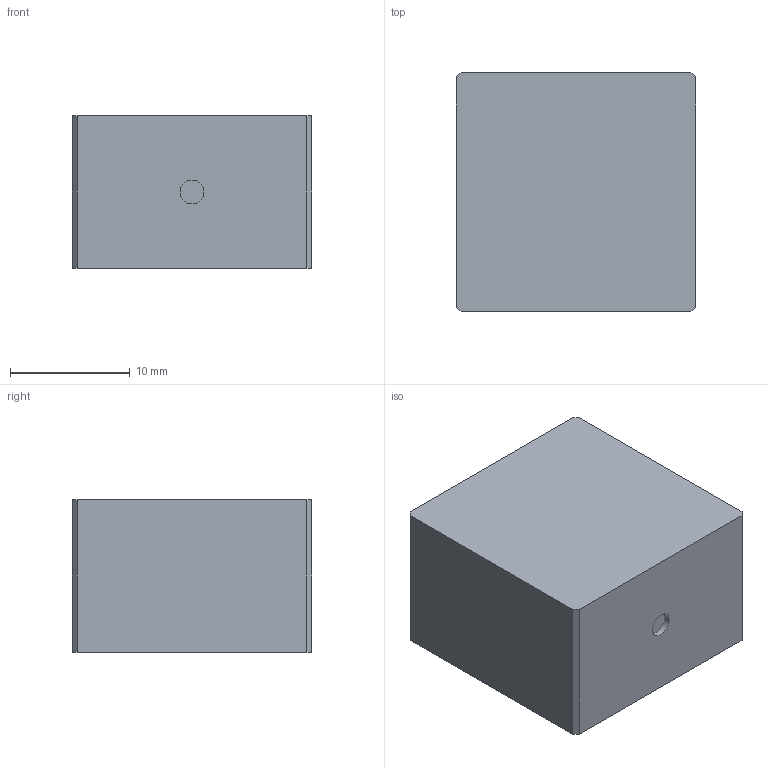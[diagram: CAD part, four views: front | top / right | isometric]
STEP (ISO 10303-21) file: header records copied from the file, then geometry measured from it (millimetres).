
FILE_DESCRIPTION(('Open CASCADE Model'),'2;1');
FILE_NAME('Open CASCADE Shape Model','2026-08-23T08:04:37',('Author'),( 'Open CASCADE'),'Open CASCADE STEP processor 7.9','Open CASCADE 7.9' ,'Unknown');
FILE_SCHEMA(('AUTOMOTIVE_DESIGN { 1 0 10303 214 1 1 1 1 }'));
Length unit declared in the file: millimetre
Products named in the file (2): =>[0:1:1:2]; COMPOUND
Assembly tree (1 placements, depth 2):
  =>[0:1:1:2]
    COMPOUND
Bounding box: 20 x 20 x 12.75 mm (x, y, z)
Volume: 5094.3 mm3; surface area: 1810.6 mm2
Topology: 1 solids, 1 shells, 12 faces, 27 edges, 18 vertices
Faces by surface type: plane 11, cylinder 1
Full cylindrical faces by diameter (mm): 2 x1
Entity records: 731 total; most frequent: CARTESIAN_POINT 119, DIRECTION 110, LINE 77, VECTOR 77, ORIENTED_EDGE 54, PCURVE 54, DEFINITIONAL_REPRESENTATION 54, EDGE_CURVE 27
